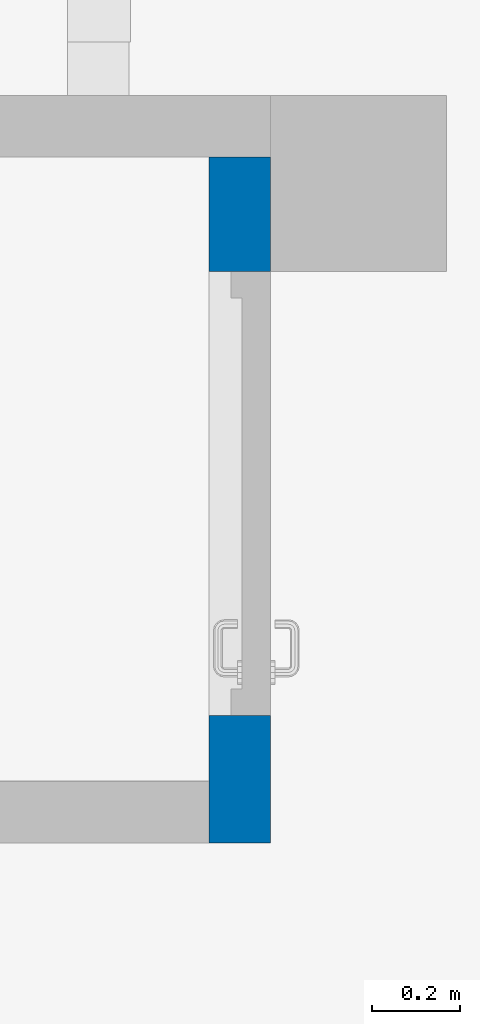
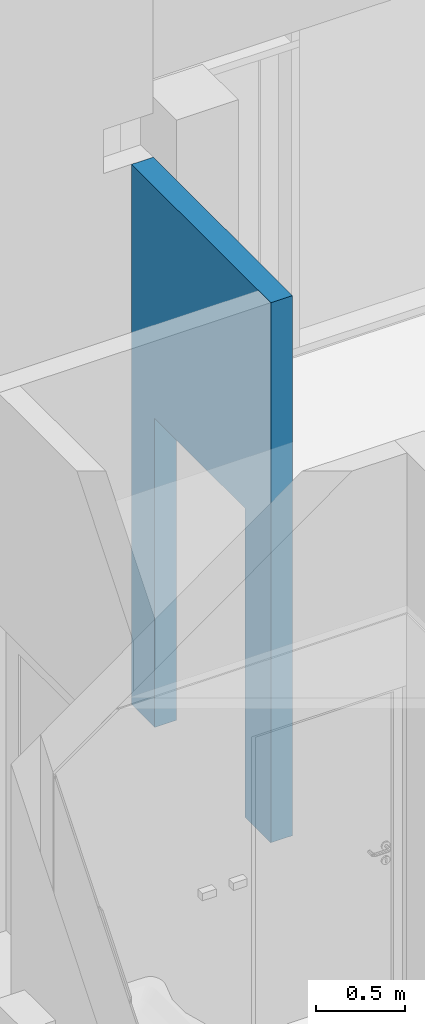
# One storey, part 90 of 301: 1 wall, 1 opening.
"""IFC2X3 building model written with IfcOpenShell, lengths in millimetres."""

from ifc_helpers import new_model, entity, si_unit, converted_unit, derived_unit, money_unit, direction, frame, origin_with_axes, place, context, subcontext, project, spatial, faceted_brep, material, type_object, element, save


model = new_model("IFC2X3")

# Units and contexts
model_context = context("Model", 3, precision=0.01, world=origin_with_axes(), true_north=direction((0.0, 1.0)))
body_context = subcontext(model_context, "Body", "Model", "MODEL_VIEW")
ifc_project = project(units=[si_unit("LENGTHUNIT", "METRE", prefix="MILLI"), si_unit("AREAUNIT", "SQUARE_METRE"), si_unit("VOLUMEUNIT", "CUBIC_METRE"), converted_unit("PLANEANGLEUNIT", "DEGREE", entity("IfcPlaneAngleMeasure", 0.0174532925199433), si_unit("PLANEANGLEUNIT", "RADIAN"), dimensions=[0, 0, 0, 0, 0, 0, 0]), money_unit("EUR"), converted_unit("TIMEUNIT", "Year", entity("IfcTimeMeasure", 31557600.0), si_unit("TIMEUNIT", "SECOND"), dimensions=[0, 0, 1, 0, 0, 0, 0]), si_unit("MASSUNIT", "GRAM", prefix="KILO"), si_unit("THERMODYNAMICTEMPERATUREUNIT", "DEGREE_CELSIUS"), si_unit("LUMINOUSINTENSITYUNIT", "LUMEN"), si_unit("ENERGYUNIT", "JOULE", prefix="MEGA"), derived_unit("THERMALCONDUCTANCEUNIT", [(si_unit("POWERUNIT", "WATT"), 1), (si_unit("LENGTHUNIT", "METRE"), -1), (si_unit("THERMODYNAMICTEMPERATUREUNIT", "KELVIN"), -1)]), derived_unit("SPECIFICHEATCAPACITYUNIT", [(si_unit("ENERGYUNIT", "JOULE"), 1), (si_unit("MASSUNIT", "GRAM", prefix="KILO"), -1), (si_unit("THERMODYNAMICTEMPERATUREUNIT", "KELVIN"), -1)]), derived_unit("MASSDENSITYUNIT", [(si_unit("MASSUNIT", "GRAM", prefix="KILO"), 1), (si_unit("VOLUMEUNIT", "CUBIC_METRE"), -1)])], contexts=[model_context])

# Site, building, storey
site_placement = place(None, frame((0.0, 0.0, 8650.0), z_axis=(0.0, 0.0, 1.0), x_axis=(1.0, 0.0, 0.0)))
site = spatial("IfcSite", under=ifc_project, at=site_placement, Name="43301:001:0844", CompositionType="ELEMENT")
building_placement = place(site_placement, origin_with_axes())
building = spatial("IfcBuilding", under=site, at=building_placement, Name="Kuressaare Ametikooli tuulikute mehaanikute õppekorpus", CompositionType="ELEMENT")
storey_placement = place(building_placement, origin_with_axes())
storey = spatial("IfcBuildingStorey", under=building, at=storey_placement, Name="1.korrus", CompositionType="ELEMENT", Elevation=0.0)

# Wall, opening
ifc_material = material(Name="Betoonõõnesplokk")
wall_type = type_object("IfcWallType", Name="SS-1.2 140", PredefinedType="NOTDEFINED")
wall_placement = place(storey_placement, frame((103667.7571242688, 22274.78038575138, 0.0), z_axis=(0.0, 0.0, 1.0), x_axis=(0.000122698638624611, 0.999999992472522, 0.0)))
wall = element("IfcWall", 1, at=wall_placement, inside=storey, type_object=wall_type, material=ifc_material, Name="Sisesein", context=body_context, shape_type="Brep", body=[
    faceted_brep([(289.3344577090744, 0.0, 0.0), (289.3344577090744, 0.0, 2110.0), (1299.334457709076, 0.0, 2110.0), (1299.334457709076, 0.0, 0.0), (1559.289269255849, 0.0, 0.0), (1559.289269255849, 0.0, 3690.0), (0.0, 0.0, 3690.0), (0.0, 0.0, 2690.000017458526), (1299.288547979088, 0.0, 2690.000017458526), (1299.288547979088, 0.0, 2640.000017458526), (0.0, 0.0, 2640.000017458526), (0.0, 0.0, 0.0), (289.3344577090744, 140.0000000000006, 0.0), (289.3344577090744, 140.0000000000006, 2110.0), (1299.334457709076, 140.0000000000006, 2110.0), (1299.334457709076, 140.0000000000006, 0.0), (1559.289269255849, 140.0000000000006, 0.0), (1559.289269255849, 140.0000000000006, 3690.0), (-0.001110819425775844, 140.0000000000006, 3690.0), (-0.001110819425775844, 140.0000000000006, 0.0), (1299.288530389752, 0.1433539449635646, 2690.000017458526), (1299.288530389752, 0.1433539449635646, 2640.000017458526)], [[[0, 1, 2, 3, 4, 5, 6, 7, 8, 9, 10, 11]], [[1, 0, 12, 13]], [[2, 1, 13, 14]], [[3, 2, 14, 15]], [[3, 15, 16, 4]], [[17, 5, 4, 16]], [[6, 5, 17, 18]], [[6, 18, 19, 11, 10, 7]], [[20, 8, 7]], [[9, 8, 20, 21]], [[21, 10, 9]], [[12, 0, 11, 19]], [[13, 12, 19, 18, 17, 16, 15, 14]], [[21, 20, 7, 10]]]),
])
opening_placement = place(wall_placement, frame((794.3344577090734, 0.0, 0.0), z_axis=(0.0, 0.0, 1.0), x_axis=(1.0, 0.0, 0.0)))
element("IfcOpeningElement", 2, at=opening_placement, cuts=wall, Name="PU10", context=body_context, shape_type="Brep", body=[
    faceted_brep([(505.0000000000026, 141.1913226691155, 2110.0), (505.0000000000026, 141.1913226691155, 0.0), (-504.999999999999, 141.1913226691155, 0.0), (-504.999999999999, 141.1913226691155, 2110.0), (505.0000000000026, -1.191322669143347, 2110.0), (505.0000000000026, -1.191322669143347, 0.0), (-504.9999999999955, -1.191322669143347, 0.0), (-504.9999999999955, -1.191322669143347, 2110.0)], [[[0, 1, 2, 3]], [[4, 5, 1, 0]], [[5, 6, 2, 1]], [[6, 7, 3, 2]], [[7, 4, 0, 3]], [[6, 5, 4, 7]]]),
])

save(model, "model.ifc")
